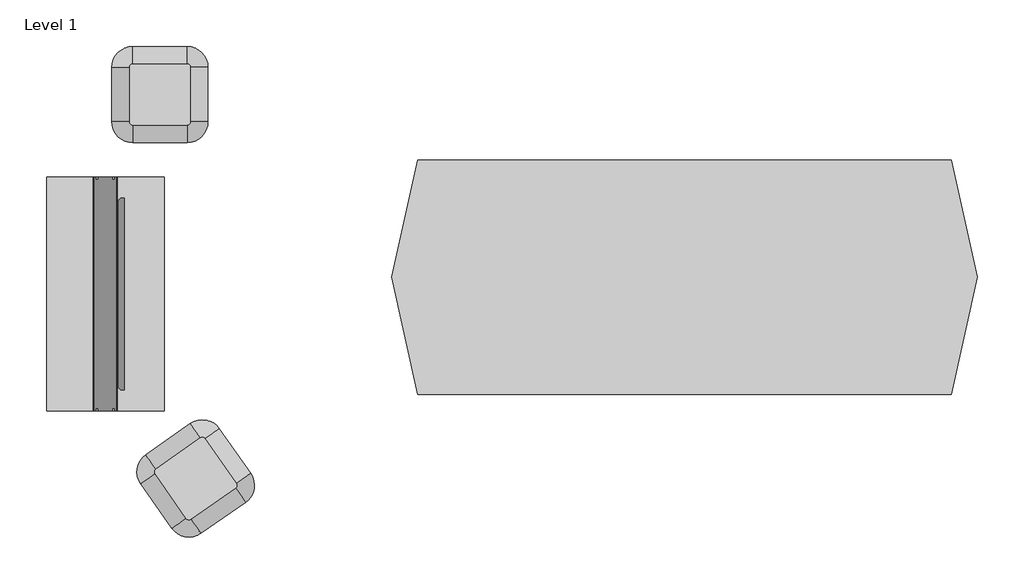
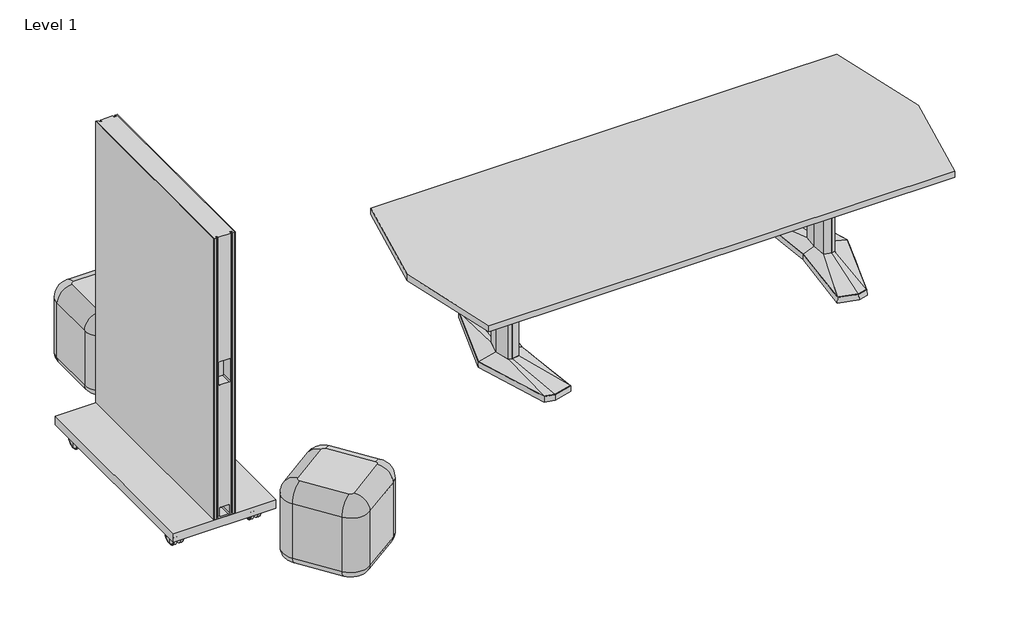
# One storey, incomplete: 4 furniture elements.
"""IFC4 building model written with IfcOpenShell, lengths in millimetres."""

from ifc_helpers import new_model, si_unit, origin, place, context, project, spatial, transform, mapped, element, save
from components import furniture_46024d2c, furniture_0eeaa3e6, furniture_48d_3d201100, furniture_50_fixed_aa59876e

model = new_model("IFC4")

# Units and contexts
model_context = context("Model", 3, world=origin())
ifc_project = project(units=[si_unit("LENGTHUNIT", "METRE", prefix="MILLI")], contexts=[model_context])

# Site, building, storey
site = spatial("IfcSite", under=ifc_project)
building = spatial("IfcBuilding", under=site)
storey = spatial("IfcBuildingStorey", under=building, Name="Level 1", Elevation=0.0)

# Furniture
placement = place(None, origin())
furniture_shape = furniture_46024d2c(model_context)
furniture_2_shape = furniture_0eeaa3e6(model_context)
element("IfcFurniture", 1, ObjectType="Steelcase Coalesse - Exponents - Storage - Mobile Display Board : Mediaboard", at=placement, inside=storey, context=model_context, shape_type="MappedRepresentation", body=[
    mapped(furniture_shape, transform((-41114.0761816, -156922.4171461, 0.0), x_axis=(0.0, 1.0, 0.0), y_axis=(-1.0, 0.0, 0.0), z_axis=(0.0, 0.0, 1.0))),
    mapped(furniture_2_shape, transform((-41114.0761816, -156922.4171461, 0.0), x_axis=(0.0, 1.0, 0.0), y_axis=(-1.0, 0.0, 0.0), z_axis=(0.0, 0.0, 1.0))),
])
furniture_48d_shape = furniture_48d_3d201100(model_context)
element("IfcFurniture", 2, ObjectType="Steelcase Coalesse - E-Table 2 - Faceted - 10ft - Aluminium Base : 48D", at=placement, inside=storey, context=model_context, shape_type="MappedRepresentation", body=[
    mapped(furniture_48d_shape, transform((-38268.9805141, -156225.2643965, 0.0), x_axis=(1.0, 0.0, 0.0), y_axis=(0.0, 1.0, 0.0), z_axis=(0.0, 0.0, 1.0))),
])
furniture_50_fixed_shape = furniture_50_fixed_aa59876e(model_context)
element("IfcFurniture", 3, ObjectType="Viccarbe - Season - Mini : 50 Fixed", at=placement, inside=storey, context=model_context, shape_type="MappedRepresentation", body=[
    mapped(furniture_50_fixed_shape, transform((-41249.8344245, -155023.6219969, 0.0), x_axis=(1.0, 0.0, 0.0), y_axis=(0.0, 1.0, 0.0), z_axis=(0.0, 0.0, 1.0))),
])
element("IfcFurniture", 4, ObjectType="Viccarbe - Season - Mini : 50 Fixed", at=placement, inside=storey, context=model_context, shape_type="MappedRepresentation", body=[
    mapped(furniture_50_fixed_shape, transform((-41162.0635856, -157212.7771605, 0.0), x_axis=(0.8191517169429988, 0.5735769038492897, 0.0), y_axis=(-0.5735769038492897, 0.8191517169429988, 0.0), z_axis=(0.0, 0.0, 1.0))),
])

save(model, "model.ifc")
